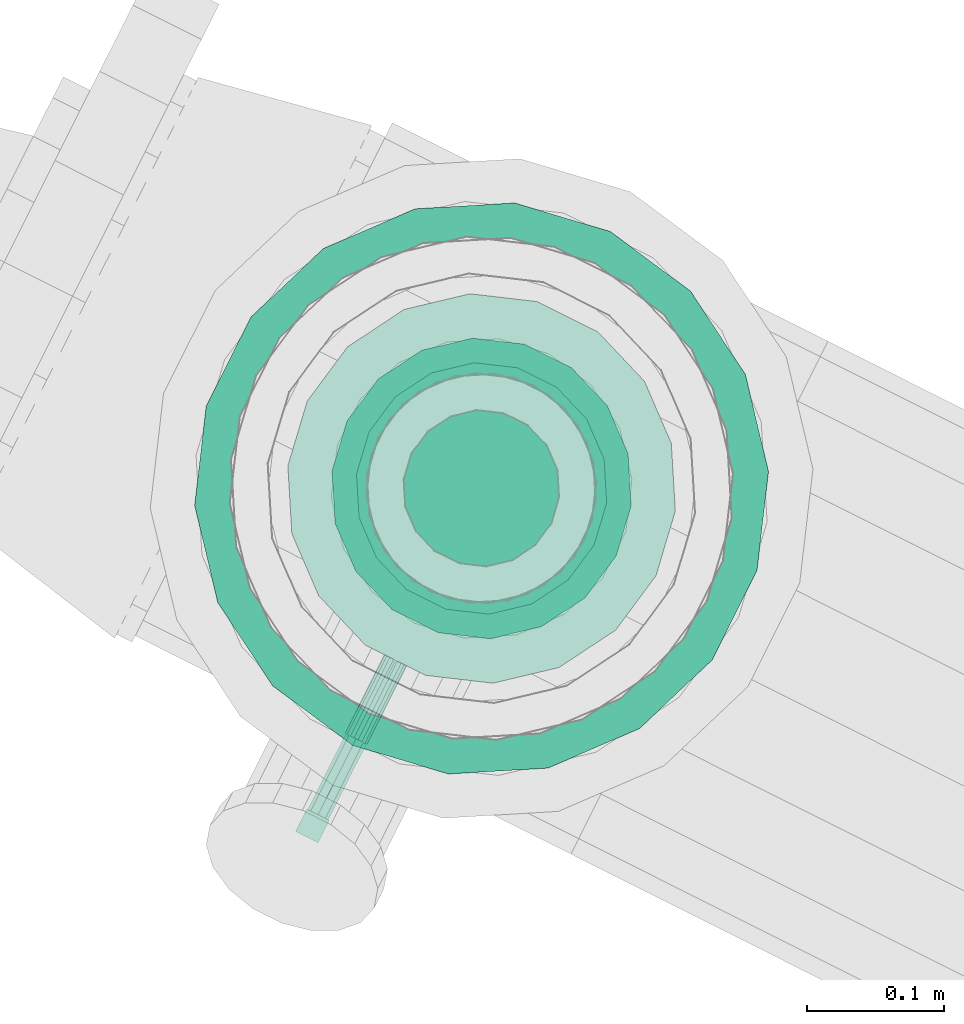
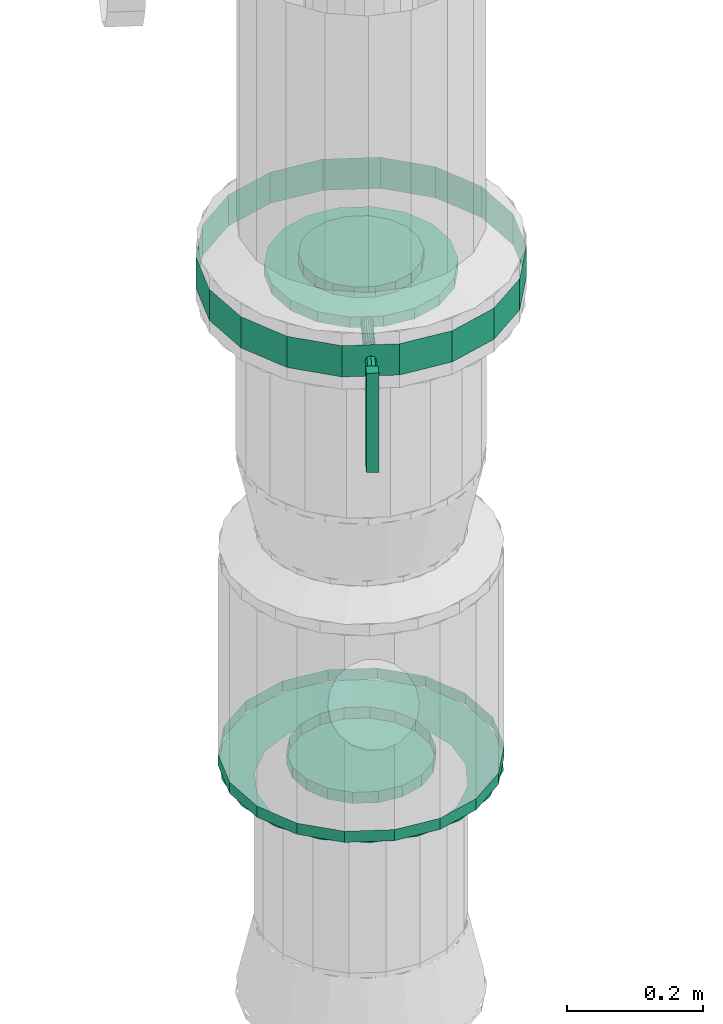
# One storey, part 72 of 152: 1 flow controller, 1 flow fitting.
"""IFC2X3 building model written with IfcOpenShell, lengths in metres."""

from ifc_helpers import new_model, si_unit, derived_unit, direction, frame, origin, place, context, subcontext, project, spatial, face_set, surface_model, source, transform, mapped, material, type_object, type_shapes, element, save


model = new_model("IFC2X3")

# Units and contexts
model_context = context("Model", 3, precision=5.2338327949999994e-05, world=origin(), true_north=direction((0.0, 1.0)))
body_context = subcontext(model_context, "Body", "Model", "MODEL_VIEW")
ifc_project = project(units=[si_unit("LENGTHUNIT", "METRE"), si_unit("AREAUNIT", "SQUARE_METRE"), si_unit("VOLUMEUNIT", "CUBIC_METRE"), si_unit("MASSUNIT", "GRAM", prefix="KILO"), si_unit("PLANEANGLEUNIT", "RADIAN"), derived_unit("THERMALTRANSMITTANCEUNIT", [(si_unit("MASSUNIT", "GRAM", prefix="KILO"), 1), (si_unit("THERMODYNAMICTEMPERATUREUNIT", "KELVIN"), -1), (si_unit("TIMEUNIT", "SECOND"), -3)])], contexts=[model_context])

# Site, building, storey
site_placement = place(None, frame((0.0, 0.0, 0.0), z_axis=(0.0, 0.0, 1.0), x_axis=(0.8939966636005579, -0.4480736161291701, 0.0)))
site = spatial("IfcSite", under=ifc_project, at=site_placement, Name="Default", CompositionType="ELEMENT")
building_placement = place(site_placement, origin())
building = spatial("IfcBuilding", under=site, at=building_placement, CompositionType="ELEMENT")
storey_placement = place(building_placement, frame((0.0, 0.0, 2.7499999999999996)))
storey = spatial("IfcBuildingStorey", under=building, at=storey_placement, Name="1. Obergeschoss", CompositionType="ELEMENT", Elevation=2.7499999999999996)

# Flow fitting
ifc_material = material(Name="IfcSurfaceStyle #1741")
distribution_element_type_1 = type_object("IfcDistributionElementType", Name="Flansch 319861:Flansch 319861", material=ifc_material)
shared_shape_1 = source(origin(), body_context, "Body", "SurfaceModel", [
    surface_model("IfcFaceBasedSurfaceModel", [(23.08485389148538, 8.402565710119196, 3.4618701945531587), (23.104400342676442, 8.406012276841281, 3.461870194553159), (23.107256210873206, 8.398165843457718, 3.4938701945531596), (23.08485389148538, 8.394215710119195, 3.493870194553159), (23.12158920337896, 8.415936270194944, 3.461870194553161), (23.126956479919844, 8.409539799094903, 3.493870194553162), (23.134347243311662, 8.431140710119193, 3.4618701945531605), (23.141578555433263, 8.426965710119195, 3.49387019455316), (23.141135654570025, 8.449791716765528, 3.4618701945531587), (23.14935879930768, 8.448341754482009, 3.4938701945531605), (23.14113565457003, 8.469639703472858, 3.461870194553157), (23.149358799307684, 8.471089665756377, 3.493870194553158), (23.134347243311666, 8.488290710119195, 3.461870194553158), (23.141578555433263, 8.492465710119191, 3.4938701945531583), (23.121589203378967, 8.50349515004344, 3.461870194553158), (23.126956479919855, 8.509891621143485, 3.4938701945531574), (23.104400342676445, 8.513419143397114, 3.4618701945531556), (23.107256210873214, 8.521265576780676, 3.493870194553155), (23.084853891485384, 8.516865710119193, 3.461870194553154), (23.084853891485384, 8.525215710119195, 3.4938701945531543), (23.06530744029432, 8.51341914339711, 3.4618701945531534), (23.06245157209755, 8.521265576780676, 3.4938701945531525), (23.048118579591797, 8.503495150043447, 3.4618701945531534), (23.042751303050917, 8.509891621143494, 3.493870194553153), (23.035360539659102, 8.488290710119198, 3.4618701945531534), (23.0281292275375, 8.492465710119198, 3.4938701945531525), (23.028572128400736, 8.46963970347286, 3.4618701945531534), (23.02034898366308, 8.471089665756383, 3.493870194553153), (23.028572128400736, 8.449791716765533, 3.4618701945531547), (23.020348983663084, 8.448341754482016, 3.4938701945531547), (23.035360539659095, 8.431140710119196, 3.4618701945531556), (23.028129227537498, 8.4269657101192, 3.4938701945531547), (23.04811857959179, 8.415936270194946, 3.4618701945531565), (23.04275130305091, 8.409539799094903, 3.4938701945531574), (23.065307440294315, 8.40601227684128, 3.461870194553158), (23.062451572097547, 8.39816584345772, 3.493870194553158), (22.974853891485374, 8.4597157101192, 3.4938701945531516), (22.98148770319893, 8.422093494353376, 3.4938701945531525), (22.98148770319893, 8.422093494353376, 3.5138701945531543), (22.974853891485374, 8.4597157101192, 3.513870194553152), (23.00058900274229, 8.389009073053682, 3.4938701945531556), (23.00058900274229, 8.389009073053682, 3.5138701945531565), (23.02985389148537, 8.364452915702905, 3.493870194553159), (23.029853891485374, 8.364452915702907, 3.5138701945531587), (23.06575259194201, 8.351386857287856, 3.4938701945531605), (23.06575259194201, 8.351386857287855, 3.513870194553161), (23.10395519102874, 8.351386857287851, 3.4938701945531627), (23.10395519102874, 8.351386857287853, 3.5138701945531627), (23.139853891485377, 8.364452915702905, 3.493870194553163), (23.139853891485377, 8.364452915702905, 3.513870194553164), (23.169118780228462, 8.389009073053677, 3.493870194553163), (23.169118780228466, 8.389009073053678, 3.513870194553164), (23.18822007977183, 8.422093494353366, 3.493870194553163), (23.18822007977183, 8.42209349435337, 3.513870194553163), (23.194853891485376, 8.459715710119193, 3.4938701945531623), (23.194853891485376, 8.459715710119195, 3.513870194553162), (23.18822007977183, 8.497337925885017, 3.49387019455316), (23.18822007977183, 8.497337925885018, 3.51387019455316), (23.169118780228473, 8.530422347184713, 3.493870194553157), (23.169118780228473, 8.530422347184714, 3.513870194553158), (23.13985389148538, 8.554978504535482, 3.493870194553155), (23.13985389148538, 8.554978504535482, 3.513870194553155), (23.103955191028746, 8.568044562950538, 3.4938701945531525), (23.103955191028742, 8.56804456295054, 3.5138701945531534), (23.065752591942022, 8.568044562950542, 3.4938701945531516), (23.065752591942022, 8.568044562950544, 3.513870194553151), (23.029853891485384, 8.554978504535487, 3.4938701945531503), (23.029853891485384, 8.55497850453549, 3.5138701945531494), (23.000589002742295, 8.530422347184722, 3.4938701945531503), (23.0005890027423, 8.530422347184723, 3.513870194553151), (22.981487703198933, 8.497337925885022, 3.4938701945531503), (22.981487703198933, 8.497337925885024, 3.513870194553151), (23.08485389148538, 8.459715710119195, 3.493870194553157), (23.084853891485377, 8.302565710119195, 3.461870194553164), (23.138602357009, 8.312043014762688, 3.4618701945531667), (23.15667812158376, 8.262380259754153, 3.493870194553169), (23.08485389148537, 8.249715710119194, 3.493870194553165), (23.185867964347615, 8.339331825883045, 3.4618701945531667), (23.219839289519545, 8.298846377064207, 3.493870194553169), (23.220949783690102, 8.381140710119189, 3.4618701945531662), (23.26671922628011, 8.35471571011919, 3.4938701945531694), (23.239616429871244, 8.43242689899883, 3.461870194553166), (23.29166351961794, 8.423249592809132, 3.493870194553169), (23.239616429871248, 8.487004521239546, 3.461870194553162), (23.29166351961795, 8.496181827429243, 3.493870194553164), (23.220949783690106, 8.538290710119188, 3.461870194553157), (23.266719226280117, 8.56471571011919, 3.4938701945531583), (23.185867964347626, 8.580099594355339, 3.461870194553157), (23.21983928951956, 8.620585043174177, 3.4938701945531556), (23.138602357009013, 8.607388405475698, 3.4618701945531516), (23.156678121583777, 8.657051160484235, 3.4938701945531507), (23.084853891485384, 8.616865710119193, 3.4618701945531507), (23.084853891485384, 8.669715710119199, 3.4938701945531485), (23.031105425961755, 8.607388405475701, 3.4618701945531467), (23.013029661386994, 8.657051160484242, 3.493870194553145), (22.98383981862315, 8.580099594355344, 3.461870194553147), (22.949868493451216, 8.620585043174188, 3.4938701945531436), (22.94875799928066, 8.5382907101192, 3.4618701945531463), (22.902988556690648, 8.564715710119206, 3.4938701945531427), (22.930091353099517, 8.487004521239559, 3.4618701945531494), (22.878044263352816, 8.49618182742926, 3.4938701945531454), (22.93009135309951, 8.432426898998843, 3.4618701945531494), (22.878044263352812, 8.423249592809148, 3.4938701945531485), (22.948757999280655, 8.381140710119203, 3.4618701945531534), (22.902988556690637, 8.354715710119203, 3.493870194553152), (22.983839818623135, 8.33933182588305, 3.461870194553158), (22.949868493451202, 8.298846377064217, 3.493870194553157), (23.031105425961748, 8.312043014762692, 3.4618701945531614), (23.013029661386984, 8.262380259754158, 3.4938701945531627), (22.87485389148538, 8.459715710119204, 3.493870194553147), (22.887518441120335, 8.387891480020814, 3.4938701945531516), (22.887518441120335, 8.387891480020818, 3.5138701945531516), (22.87485389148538, 8.459715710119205, 3.513870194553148), (22.92398455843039, 8.324730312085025, 3.4938701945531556), (22.92398455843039, 8.324730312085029, 3.5138701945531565), (22.979853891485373, 8.277850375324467, 3.49387019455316), (22.979853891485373, 8.27785037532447, 3.513870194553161), (23.048387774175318, 8.252906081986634, 3.4938701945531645), (23.048387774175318, 8.252906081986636, 3.513870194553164), (23.121320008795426, 8.252906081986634, 3.4938701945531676), (23.12132000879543, 8.252906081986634, 3.5138701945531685), (23.18985389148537, 8.27785037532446, 3.493870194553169), (23.189853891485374, 8.277850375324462, 3.5138701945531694), (23.245723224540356, 8.324730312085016, 3.49387019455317), (23.24572322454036, 8.32473031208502, 3.5138701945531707), (23.28218934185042, 8.387891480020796, 3.493870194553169), (23.28218934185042, 8.387891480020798, 3.5138701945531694), (23.294853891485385, 8.459715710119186, 3.4938701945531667), (23.294853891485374, 8.45971571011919, 3.5138701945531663), (23.282189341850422, 8.53153994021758, 3.4938701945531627), (23.28218934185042, 8.531539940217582, 3.513870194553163), (23.24572322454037, 8.594701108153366, 3.493870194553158), (23.24572322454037, 8.594701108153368, 3.513870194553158), (23.189853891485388, 8.641581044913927, 3.4938701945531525), (23.189853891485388, 8.641581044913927, 3.5138701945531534), (23.121320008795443, 8.66652533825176, 3.4938701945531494), (23.121320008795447, 8.66652533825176, 3.5138701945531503), (23.048387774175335, 8.66652533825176, 3.493870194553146), (23.048387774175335, 8.666525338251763, 3.513870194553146), (22.979853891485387, 8.641581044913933, 3.4938701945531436), (22.979853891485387, 8.641581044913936, 3.513870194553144), (22.923984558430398, 8.59470110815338, 3.4938701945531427), (22.923984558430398, 8.594701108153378, 3.513870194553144), (22.887518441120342, 8.531539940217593, 3.4938701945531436), (22.887518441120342, 8.531539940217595, 3.5138701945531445)], [face_set([[[0, 1, 2, 3]], [[1, 4, 5, 2]], [[4, 6, 7, 5]], [[6, 8, 9, 7]], [[8, 10, 11, 9]], [[10, 12, 13, 11]], [[12, 14, 15, 13]], [[14, 16, 17, 15]], [[16, 18, 19, 17]], [[18, 20, 21, 19]], [[20, 22, 23, 21]], [[22, 24, 25, 23]], [[24, 26, 27, 25]], [[26, 28, 29, 27]], [[28, 30, 31, 29]], [[30, 32, 33, 31]], [[32, 34, 35, 33]], [[34, 0, 3, 35]], [[36, 37, 38, 39]], [[37, 40, 41, 38]], [[40, 42, 43, 41]], [[42, 44, 45, 43]], [[44, 46, 47, 45]], [[46, 48, 49, 47]], [[48, 50, 51, 49]], [[50, 52, 53, 51]], [[52, 54, 55, 53]], [[54, 56, 57, 55]], [[56, 58, 59, 57]], [[58, 60, 61, 59]], [[60, 62, 63, 61]], [[62, 64, 65, 63]], [[64, 66, 67, 65]], [[66, 68, 69, 67]], [[68, 70, 71, 69]], [[70, 36, 39, 71]], [[72, 37, 36]], [[72, 40, 37]], [[72, 42, 40]], [[72, 44, 42]], [[72, 46, 44]], [[72, 48, 46]], [[72, 50, 48]], [[72, 52, 50]], [[72, 54, 52]], [[72, 56, 54]], [[72, 58, 56]], [[72, 60, 58]], [[72, 62, 60]], [[72, 64, 62]], [[72, 66, 64]], [[72, 68, 66]], [[72, 70, 68]], [[72, 36, 70]], [[73, 74, 75, 76]], [[74, 77, 78, 75]], [[77, 79, 80, 78]], [[79, 81, 82, 80]], [[81, 83, 84, 82]], [[83, 85, 86, 84]], [[85, 87, 88, 86]], [[87, 89, 90, 88]], [[89, 91, 92, 90]], [[91, 93, 94, 92]], [[93, 95, 96, 94]], [[95, 97, 98, 96]], [[97, 99, 100, 98]], [[99, 101, 102, 100]], [[101, 103, 104, 102]], [[103, 105, 106, 104]], [[105, 107, 108, 106]], [[107, 73, 76, 108]], [[109, 110, 111, 112]], [[110, 113, 114, 111]], [[113, 115, 116, 114]], [[115, 117, 118, 116]], [[117, 119, 120, 118]], [[119, 121, 122, 120]], [[121, 123, 124, 122]], [[123, 125, 126, 124]], [[125, 127, 128, 126]], [[127, 129, 130, 128]], [[129, 131, 132, 130]], [[131, 133, 134, 132]], [[133, 135, 136, 134]], [[135, 137, 138, 136]], [[137, 139, 140, 138]], [[139, 141, 142, 140]], [[141, 143, 144, 142]], [[143, 109, 112, 144]]])]),
])
type_shapes(distribution_element_type_1, [shared_shape_1])
flow_fitting_placement = place(storey_placement, frame((0.0, 0.0, -2.7499999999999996)))
element("IfcFlowFitting", 1, at=flow_fitting_placement, inside=storey, type_object=distribution_element_type_1, material=ifc_material, Name="Flansch", ObjectType="Flansch", context=body_context, shape_type="MappedRepresentation", body=[
    mapped(shared_shape_1, transform((0.0, 0.0, 0.0), scale=1.0)),
])

# Flow controller
distribution_element_type_2 = type_object("IfcDistributionElementType", Name="Zwischenflanschklappe 320400:Zwischenflanschklappe 320400", material=ifc_material)
shared_shape_2 = source(origin(), body_context, "Body", "SurfaceModel", [
    surface_model("IfcFaceBasedSurfaceModel", [(23.094053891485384, 8.193115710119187, 4.2088834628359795), (23.094053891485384, 8.193115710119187, 4.38638346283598), (23.07565389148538, 8.193115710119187, 4.38638346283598), (23.07565389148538, 8.193115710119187, 4.2088834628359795), (23.07565389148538, 8.174715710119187, 4.386383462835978), (23.07565389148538, 8.174715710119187, 4.2088834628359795), (23.094053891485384, 8.174715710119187, 4.386383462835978), (23.094053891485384, 8.174715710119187, 4.2088834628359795), (22.992853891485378, 8.459715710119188, 4.349183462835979), (22.99840217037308, 8.428249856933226, 4.349183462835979), (22.99840217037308, 8.428249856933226, 4.367850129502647), (22.992853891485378, 8.459715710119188, 4.367850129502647), (23.014377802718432, 8.400579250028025, 4.349183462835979), (23.014377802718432, 8.400579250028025, 4.367850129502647), (23.03885389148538, 8.380041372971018, 4.349183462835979), (23.03885389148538, 8.380041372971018, 4.367850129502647), (23.068878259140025, 8.369113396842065, 4.349183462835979), (23.068878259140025, 8.369113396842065, 4.367850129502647), (23.10082952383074, 8.369113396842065, 4.349183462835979), (23.10082952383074, 8.369113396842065, 4.367850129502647), (23.130853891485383, 8.38004137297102, 4.349183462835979), (23.130853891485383, 8.38004137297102, 4.367850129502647), (23.155329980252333, 8.400579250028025, 4.349183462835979), (23.155329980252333, 8.400579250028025, 4.367850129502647), (23.171305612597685, 8.428249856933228, 4.349183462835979), (23.171305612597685, 8.428249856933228, 4.367850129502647), (23.17685389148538, 8.459715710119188, 4.349183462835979), (23.17685389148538, 8.459715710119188, 4.367850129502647), (23.171305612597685, 8.49118156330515, 4.349183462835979), (23.171305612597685, 8.49118156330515, 4.367850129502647), (23.155329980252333, 8.518852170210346, 4.349183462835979), (23.155329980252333, 8.518852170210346, 4.367850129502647), (23.130853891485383, 8.539390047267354, 4.349183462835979), (23.130853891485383, 8.539390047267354, 4.367850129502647), (23.10082952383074, 8.55031802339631, 4.349183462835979), (23.10082952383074, 8.55031802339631, 4.367850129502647), (23.068878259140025, 8.55031802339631, 4.349183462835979), (23.068878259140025, 8.55031802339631, 4.367850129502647), (23.03885389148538, 8.539390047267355, 4.349183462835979), (23.03885389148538, 8.539390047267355, 4.367850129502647), (23.014377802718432, 8.51885217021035, 4.349183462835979), (23.014377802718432, 8.51885217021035, 4.367850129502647), (22.998402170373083, 8.49118156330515, 4.349183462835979), (22.998402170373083, 8.49118156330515, 4.367850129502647), (23.084853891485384, 8.459715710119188, 4.349183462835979), (23.084853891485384, 8.459715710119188, 4.367850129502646), (22.942353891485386, 8.459715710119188, 4.367850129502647), (22.950947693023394, 8.410977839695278, 4.367850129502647), (22.950947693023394, 8.410977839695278, 4.386516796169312), (22.942353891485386, 8.459715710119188, 4.386516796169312), (22.975692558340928, 8.368118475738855, 4.367850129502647), (22.975692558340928, 8.368118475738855, 4.386516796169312), (23.013603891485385, 8.336307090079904, 4.367850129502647), (23.013603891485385, 8.336307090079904, 4.386516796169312), (23.060109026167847, 8.319380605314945, 4.367850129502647), (23.060109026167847, 8.319380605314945, 4.386516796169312), (23.109598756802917, 8.319380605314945, 4.367850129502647), (23.109598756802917, 8.319380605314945, 4.386516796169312), (23.15610389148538, 8.336307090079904, 4.367850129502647), (23.15610389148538, 8.336307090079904, 4.386516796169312), (23.194015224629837, 8.368118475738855, 4.367850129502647), (23.194015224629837, 8.368118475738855, 4.386516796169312), (23.218760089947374, 8.410977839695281, 4.367850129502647), (23.218760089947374, 8.410977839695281, 4.386516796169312), (23.227353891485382, 8.459715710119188, 4.367850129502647), (23.227353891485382, 8.459715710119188, 4.386516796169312), (23.218760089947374, 8.508453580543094, 4.367850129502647), (23.218760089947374, 8.508453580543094, 4.386516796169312), (23.194015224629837, 8.551312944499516, 4.367850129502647), (23.194015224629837, 8.551312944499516, 4.386516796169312), (23.15610389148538, 8.583124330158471, 4.367850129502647), (23.15610389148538, 8.583124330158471, 4.386516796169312), (23.109598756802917, 8.600050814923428, 4.367850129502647), (23.109598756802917, 8.600050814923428, 4.386516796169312), (23.060109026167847, 8.600050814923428, 4.367850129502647), (23.060109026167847, 8.600050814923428, 4.386516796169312), (23.013603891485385, 8.583124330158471, 4.367850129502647), (23.013603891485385, 8.583124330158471, 4.386516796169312), (22.975692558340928, 8.55131294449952, 4.367850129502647), (22.975692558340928, 8.55131294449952, 4.386516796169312), (22.950947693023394, 8.508453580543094, 4.367850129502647), (22.950947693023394, 8.508453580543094, 4.386516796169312), (23.084853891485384, 8.459715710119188, 4.386516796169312), (22.992853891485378, 8.459715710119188, 4.386516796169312), (22.99840217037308, 8.428249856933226, 4.386516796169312), (22.99840217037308, 8.428249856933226, 4.4051834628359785), (22.992853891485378, 8.459715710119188, 4.4051834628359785), (23.014377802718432, 8.400579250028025, 4.386516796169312), (23.014377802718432, 8.400579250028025, 4.4051834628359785), (23.03885389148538, 8.380041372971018, 4.386516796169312), (23.03885389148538, 8.380041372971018, 4.4051834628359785), (23.068878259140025, 8.369113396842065, 4.386516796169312), (23.068878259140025, 8.369113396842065, 4.4051834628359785), (23.10082952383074, 8.369113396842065, 4.386516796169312), (23.10082952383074, 8.369113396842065, 4.4051834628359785), (23.130853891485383, 8.38004137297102, 4.386516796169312), (23.130853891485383, 8.38004137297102, 4.4051834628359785), (23.155329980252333, 8.400579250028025, 4.386516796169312), (23.155329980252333, 8.400579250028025, 4.4051834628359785), (23.171305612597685, 8.428249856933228, 4.386516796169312), (23.171305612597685, 8.428249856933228, 4.4051834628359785), (23.17685389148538, 8.459715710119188, 4.386516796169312), (23.17685389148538, 8.459715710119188, 4.4051834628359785), (23.171305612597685, 8.49118156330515, 4.386516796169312), (23.171305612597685, 8.49118156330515, 4.4051834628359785), (23.155329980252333, 8.518852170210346, 4.386516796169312), (23.155329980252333, 8.518852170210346, 4.4051834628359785), (23.130853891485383, 8.539390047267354, 4.386516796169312), (23.130853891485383, 8.539390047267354, 4.4051834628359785), (23.10082952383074, 8.55031802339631, 4.386516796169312), (23.10082952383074, 8.55031802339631, 4.4051834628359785), (23.068878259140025, 8.55031802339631, 4.386516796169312), (23.068878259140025, 8.55031802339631, 4.4051834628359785), (23.03885389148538, 8.539390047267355, 4.386516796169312), (23.03885389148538, 8.539390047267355, 4.4051834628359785), (23.014377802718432, 8.51885217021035, 4.386516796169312), (23.014377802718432, 8.51885217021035, 4.4051834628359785), (22.998402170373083, 8.49118156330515, 4.386516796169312), (22.998402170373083, 8.49118156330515, 4.4051834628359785), (23.084853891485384, 8.459715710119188, 4.4051834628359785), (23.075520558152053, 8.459715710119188, 4.377183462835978), (23.076083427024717, 8.459715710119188, 4.373991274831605), (23.076083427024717, 8.255165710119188, 4.373991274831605), (23.075520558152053, 8.255165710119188, 4.377183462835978), (23.077704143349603, 8.459715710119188, 4.37118411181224), (23.077704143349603, 8.255165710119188, 4.37118411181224), (23.080187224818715, 8.459715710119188, 4.3691005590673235), (23.080187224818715, 8.255165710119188, 4.3691005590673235), (23.083233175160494, 8.459715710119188, 4.367991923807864), (23.083233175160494, 8.255165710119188, 4.367991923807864), (23.08647460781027, 8.459715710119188, 4.367991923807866), (23.08647460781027, 8.255165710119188, 4.367991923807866), (23.08952055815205, 8.459715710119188, 4.369100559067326), (23.08952055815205, 8.255165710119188, 4.369100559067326), (23.09200363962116, 8.459715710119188, 4.37118411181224), (23.09200363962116, 8.255165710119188, 4.37118411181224), (23.09362435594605, 8.459715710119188, 4.373991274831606), (23.09362435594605, 8.255165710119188, 4.373991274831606), (23.09418722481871, 8.459715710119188, 4.377183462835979), (23.09418722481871, 8.255165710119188, 4.377183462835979), (23.09362435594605, 8.459715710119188, 4.380375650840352), (23.09362435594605, 8.255165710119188, 4.380375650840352), (23.09200363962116, 8.459715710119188, 4.383182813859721), (23.09200363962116, 8.255165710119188, 4.383182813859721), (23.08952055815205, 8.459715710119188, 4.385266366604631), (23.08952055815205, 8.255165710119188, 4.385266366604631), (23.08647460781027, 8.459715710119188, 4.386375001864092), (23.08647460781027, 8.255165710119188, 4.386375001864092), (23.083233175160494, 8.459715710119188, 4.386375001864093), (23.083233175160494, 8.255165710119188, 4.386375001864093), (23.080187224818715, 8.459715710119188, 4.385266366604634), (23.080187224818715, 8.255165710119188, 4.385266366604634), (23.077704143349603, 8.459715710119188, 4.383182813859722), (23.077704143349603, 8.255165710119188, 4.383182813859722), (23.076083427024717, 8.459715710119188, 4.3803756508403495), (23.076083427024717, 8.255165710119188, 4.3803756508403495), (23.084853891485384, 8.459715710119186, 4.377183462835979), (23.084853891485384, 8.255165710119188, 4.377183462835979), (23.07643889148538, 8.255165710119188, 4.377183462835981), (23.0789035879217, 8.255165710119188, 4.371233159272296), (23.0789035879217, 8.193115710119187, 4.371233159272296), (23.07643889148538, 8.193115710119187, 4.377183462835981), (23.084853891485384, 8.255165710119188, 4.368768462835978), (23.084853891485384, 8.193115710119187, 4.368768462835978), (23.090804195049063, 8.255165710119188, 4.371233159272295), (23.090804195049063, 8.193115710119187, 4.371233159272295), (23.093268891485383, 8.255165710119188, 4.377183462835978), (23.093268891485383, 8.193115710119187, 4.377183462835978), (23.090804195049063, 8.255165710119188, 4.3831337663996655), (23.090804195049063, 8.193115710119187, 4.383133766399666), (23.084853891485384, 8.255165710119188, 4.385598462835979), (23.084853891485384, 8.193115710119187, 4.385598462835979), (23.0789035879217, 8.255165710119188, 4.383133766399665), (23.0789035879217, 8.193115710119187, 4.3831337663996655), (23.084853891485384, 8.193115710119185, 4.377183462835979), (22.842353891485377, 8.459715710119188, 4.349183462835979), (22.8569784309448, 8.376775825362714, 4.349183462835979), (22.8569784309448, 8.376775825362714, 4.4051834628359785), (22.842353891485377, 8.459715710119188, 4.4051834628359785), (22.89908811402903, 8.303839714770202, 4.349183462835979), (22.89908811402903, 8.303839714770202, 4.4051834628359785), (22.963603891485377, 8.249704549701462, 4.349183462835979), (22.963603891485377, 8.249704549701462, 4.4051834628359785), (23.04274420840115, 8.220899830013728, 4.349183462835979), (23.04274420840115, 8.220899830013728, 4.4051834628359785), (23.12696357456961, 8.220899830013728, 4.349183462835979), (23.12696357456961, 8.220899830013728, 4.4051834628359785), (23.206103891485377, 8.24970454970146, 4.349183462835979), (23.206103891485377, 8.24970454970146, 4.4051834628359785), (23.27061966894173, 8.303839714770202, 4.349183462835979), (23.27061966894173, 8.303839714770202, 4.4051834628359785), (23.312729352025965, 8.376775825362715, 4.349183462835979), (23.312729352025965, 8.376775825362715, 4.4051834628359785), (23.32735389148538, 8.459715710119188, 4.349183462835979), (23.32735389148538, 8.459715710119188, 4.4051834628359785), (23.312729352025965, 8.542655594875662, 4.349183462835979), (23.312729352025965, 8.542655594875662, 4.4051834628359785), (23.27061966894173, 8.615591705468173, 4.349183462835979), (23.27061966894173, 8.615591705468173, 4.4051834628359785), (23.206103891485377, 8.669726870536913, 4.349183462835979), (23.206103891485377, 8.669726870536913, 4.4051834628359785), (23.126963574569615, 8.698531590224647, 4.349183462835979), (23.126963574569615, 8.698531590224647, 4.4051834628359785), (23.04274420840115, 8.698531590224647, 4.349183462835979), (23.04274420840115, 8.698531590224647, 4.4051834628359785), (22.963603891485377, 8.669726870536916, 4.349183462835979), (22.963603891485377, 8.669726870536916, 4.4051834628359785), (22.89908811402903, 8.615591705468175, 4.349183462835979), (22.89908811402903, 8.615591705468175, 4.4051834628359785), (22.8569784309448, 8.542655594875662, 4.349183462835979), (22.8569784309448, 8.542655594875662, 4.4051834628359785)], [face_set([[[0, 1, 2, 3]], [[3, 2, 4, 5]], [[5, 4, 6, 7]], [[7, 6, 1, 0]], [[0, 3, 5, 7]], [[6, 4, 2, 1]], [[8, 9, 10, 11]], [[9, 12, 13, 10]], [[12, 14, 15, 13]], [[14, 16, 17, 15]], [[16, 18, 19, 17]], [[18, 20, 21, 19]], [[20, 22, 23, 21]], [[22, 24, 25, 23]], [[24, 26, 27, 25]], [[26, 28, 29, 27]], [[28, 30, 31, 29]], [[30, 32, 33, 31]], [[32, 34, 35, 33]], [[34, 36, 37, 35]], [[36, 38, 39, 37]], [[38, 40, 41, 39]], [[40, 42, 43, 41]], [[42, 8, 11, 43]], [[44, 9, 8]], [[44, 12, 9]], [[44, 14, 12]], [[44, 16, 14]], [[44, 18, 16]], [[44, 20, 18]], [[44, 22, 20]], [[44, 24, 22]], [[44, 26, 24]], [[44, 28, 26]], [[44, 30, 28]], [[44, 32, 30]], [[44, 34, 32]], [[44, 36, 34]], [[44, 38, 36]], [[44, 40, 38]], [[44, 42, 40]], [[44, 8, 42]], [[45, 43, 11]], [[45, 41, 43]], [[45, 39, 41]], [[45, 37, 39]], [[45, 35, 37]], [[45, 33, 35]], [[45, 31, 33]], [[45, 29, 31]], [[45, 27, 29]], [[45, 25, 27]], [[45, 23, 25]], [[45, 21, 23]], [[45, 19, 21]], [[45, 17, 19]], [[45, 15, 17]], [[45, 13, 15]], [[45, 10, 13]], [[45, 11, 10]], [[46, 47, 48, 49]], [[47, 50, 51, 48]], [[50, 52, 53, 51]], [[52, 54, 55, 53]], [[54, 56, 57, 55]], [[56, 58, 59, 57]], [[58, 60, 61, 59]], [[60, 62, 63, 61]], [[62, 64, 65, 63]], [[64, 66, 67, 65]], [[66, 68, 69, 67]], [[68, 70, 71, 69]], [[70, 72, 73, 71]], [[72, 74, 75, 73]], [[74, 76, 77, 75]], [[76, 78, 79, 77]], [[78, 80, 81, 79]], [[80, 46, 49, 81]], [[45, 47, 46]], [[45, 50, 47]], [[45, 52, 50]], [[45, 54, 52]], [[45, 56, 54]], [[45, 58, 56]], [[45, 60, 58]], [[45, 62, 60]], [[45, 64, 62]], [[45, 66, 64]], [[45, 68, 66]], [[45, 70, 68]], [[45, 72, 70]], [[45, 74, 72]], [[45, 76, 74]], [[45, 78, 76]], [[45, 80, 78]], [[45, 46, 80]], [[82, 81, 49]], [[82, 79, 81]], [[82, 77, 79]], [[82, 75, 77]], [[82, 73, 75]], [[82, 71, 73]], [[82, 69, 71]], [[82, 67, 69]], [[82, 65, 67]], [[82, 63, 65]], [[82, 61, 63]], [[82, 59, 61]], [[82, 57, 59]], [[82, 55, 57]], [[82, 53, 55]], [[82, 51, 53]], [[82, 48, 51]], [[82, 49, 48]], [[83, 84, 85, 86]], [[84, 87, 88, 85]], [[87, 89, 90, 88]], [[89, 91, 92, 90]], [[91, 93, 94, 92]], [[93, 95, 96, 94]], [[95, 97, 98, 96]], [[97, 99, 100, 98]], [[99, 101, 102, 100]], [[101, 103, 104, 102]], [[103, 105, 106, 104]], [[105, 107, 108, 106]], [[107, 109, 110, 108]], [[109, 111, 112, 110]], [[111, 113, 114, 112]], [[113, 115, 116, 114]], [[115, 117, 118, 116]], [[117, 83, 86, 118]], [[82, 84, 83]], [[82, 87, 84]], [[82, 89, 87]], [[82, 91, 89]], [[82, 93, 91]], [[82, 95, 93]], [[82, 97, 95]], [[82, 99, 97]], [[82, 101, 99]], [[82, 103, 101]], [[82, 105, 103]], [[82, 107, 105]], [[82, 109, 107]], [[82, 111, 109]], [[82, 113, 111]], [[82, 115, 113]], [[82, 117, 115]], [[82, 83, 117]], [[119, 118, 86]], [[119, 116, 118]], [[119, 114, 116]], [[119, 112, 114]], [[119, 110, 112]], [[119, 108, 110]], [[119, 106, 108]], [[119, 104, 106]], [[119, 102, 104]], [[119, 100, 102]], [[119, 98, 100]], [[119, 96, 98]], [[119, 94, 96]], [[119, 92, 94]], [[119, 90, 92]], [[119, 88, 90]], [[119, 85, 88]], [[119, 86, 85]], [[120, 121, 122, 123]], [[121, 124, 125, 122]], [[124, 126, 127, 125]], [[126, 128, 129, 127]], [[128, 130, 131, 129]], [[130, 132, 133, 131]], [[132, 134, 135, 133]], [[134, 136, 137, 135]], [[136, 138, 139, 137]], [[138, 140, 141, 139]], [[140, 142, 143, 141]], [[142, 144, 145, 143]], [[144, 146, 147, 145]], [[146, 148, 149, 147]], [[148, 150, 151, 149]], [[150, 152, 153, 151]], [[152, 154, 155, 153]], [[154, 120, 123, 155]], [[156, 121, 120]], [[156, 124, 121]], [[156, 126, 124]], [[156, 128, 126]], [[156, 130, 128]], [[156, 132, 130]], [[156, 134, 132]], [[156, 136, 134]], [[156, 138, 136]], [[156, 140, 138]], [[156, 142, 140]], [[156, 144, 142]], [[156, 146, 144]], [[156, 148, 146]], [[156, 150, 148]], [[156, 152, 150]], [[156, 154, 152]], [[156, 120, 154]], [[157, 155, 123]], [[157, 153, 155]], [[157, 151, 153]], [[157, 149, 151]], [[157, 147, 149]], [[157, 145, 147]], [[157, 143, 145]], [[157, 141, 143]], [[157, 139, 141]], [[157, 137, 139]], [[157, 135, 137]], [[157, 133, 135]], [[157, 131, 133]], [[157, 129, 131]], [[157, 127, 129]], [[157, 125, 127]], [[157, 122, 125]], [[157, 123, 122]], [[158, 159, 160, 161]], [[159, 162, 163, 160]], [[162, 164, 165, 163]], [[164, 166, 167, 165]], [[166, 168, 169, 167]], [[168, 170, 171, 169]], [[170, 172, 173, 171]], [[172, 158, 161, 173]], [[174, 173, 161]], [[174, 171, 173]], [[174, 169, 171]], [[174, 167, 169]], [[174, 165, 167]], [[174, 163, 165]], [[174, 160, 163]], [[174, 161, 160]], [[175, 176, 177, 178]], [[176, 179, 180, 177]], [[179, 181, 182, 180]], [[181, 183, 184, 182]], [[183, 185, 186, 184]], [[185, 187, 188, 186]], [[187, 189, 190, 188]], [[189, 191, 192, 190]], [[191, 193, 194, 192]], [[193, 195, 196, 194]], [[195, 197, 198, 196]], [[197, 199, 200, 198]], [[199, 201, 202, 200]], [[201, 203, 204, 202]], [[203, 205, 206, 204]], [[205, 207, 208, 206]], [[207, 209, 210, 208]], [[209, 175, 178, 210]]])]),
])
type_shapes(distribution_element_type_2, [shared_shape_2])
flow_controller_placement = place(storey_placement, frame((0.0, 0.0, -2.7499999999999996)))
element("IfcFlowController", 2, at=flow_controller_placement, inside=storey, type_object=distribution_element_type_2, material=ifc_material, Name="Zwischenflanschklappe", ObjectType="Zwischenflanschklappe", context=body_context, shape_type="MappedRepresentation", body=[
    mapped(shared_shape_2, transform((0.0, 0.0, 0.0), scale=1.0)),
])

save(model, "model.ifc")
